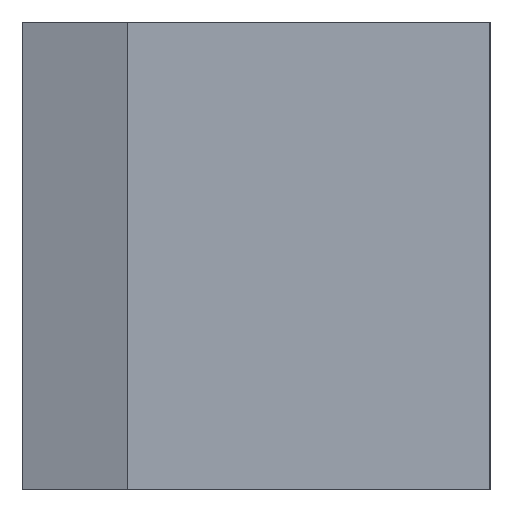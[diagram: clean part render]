
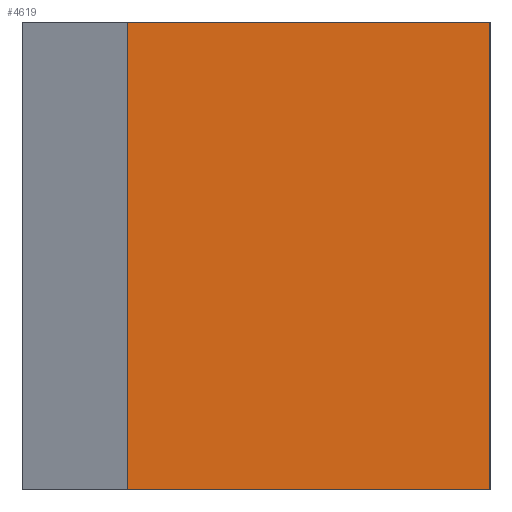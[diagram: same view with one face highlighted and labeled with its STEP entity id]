
A CAD part, left-side view. The second image highlights one B-rep face of the part: STEP entity #4619.
In plain terms, the highlighted planar face has unit normal (-1, 0, 0).
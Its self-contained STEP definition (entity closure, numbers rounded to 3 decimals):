
#233=FACE_OUTER_BOUND('',#454,.T.);
#454=EDGE_LOOP('',(#3738,#3739,#3740,#3741));
#458=LINE('',#5952,#1115);
#1111=LINE('',#7257,#1768);
#1112=LINE('',#7259,#1769);
#1113=LINE('',#7260,#1770);
#1115=VECTOR('',#4850,30.);
#1768=VECTOR('',#5937,30.);
#1769=VECTOR('',#5940,23.25);
#1770=VECTOR('',#5941,23.25);
#1772=VERTEX_POINT('',#5949);
#1773=VERTEX_POINT('',#5951);
#2207=VERTEX_POINT('',#7253);
#2208=VERTEX_POINT('',#7255);
#2210=EDGE_CURVE('',#1772,#1773,#458,.T.);
#2863=EDGE_CURVE('',#2207,#2208,#1111,.T.);
#2864=EDGE_CURVE('',#1772,#2207,#1112,.T.);
#2865=EDGE_CURVE('',#1773,#2208,#1113,.T.);
#3738=ORIENTED_EDGE('',*,*,#2864,.T.);
#3739=ORIENTED_EDGE('',*,*,#2863,.T.);
#3740=ORIENTED_EDGE('',*,*,#2865,.F.);
#3741=ORIENTED_EDGE('',*,*,#2210,.F.);
#4398=PLANE('',#4842);
#4619=ADVANCED_FACE('',(#233),#4398,.T.);
#4842=AXIS2_PLACEMENT_3D('',#7258,#5938,#5939);
#4850=DIRECTION('',(0.,0.,1.));
#5937=DIRECTION('',(0.,0.,1.));
#5938=DIRECTION('center_axis',(-1.,0.,0.));
#5939=DIRECTION('ref_axis',(0.,-1.,0.));
#5940=DIRECTION('',(0.,-1.,0.));
#5941=DIRECTION('',(0.,-1.,0.));
#5949=CARTESIAN_POINT('',(23.662,-39.832,0.));
#5951=CARTESIAN_POINT('',(23.662,-39.832,30.));
#5952=CARTESIAN_POINT('',(23.662,-39.832,0.));
#7253=CARTESIAN_POINT('',(23.662,-63.082,0.));
#7255=CARTESIAN_POINT('',(23.662,-63.082,30.));
#7257=CARTESIAN_POINT('',(23.662,-63.082,0.));
#7258=CARTESIAN_POINT('Origin',(23.662,-39.832,0.));
#7259=CARTESIAN_POINT('',(23.662,-39.832,0.));
#7260=CARTESIAN_POINT('',(23.662,-39.832,30.));
